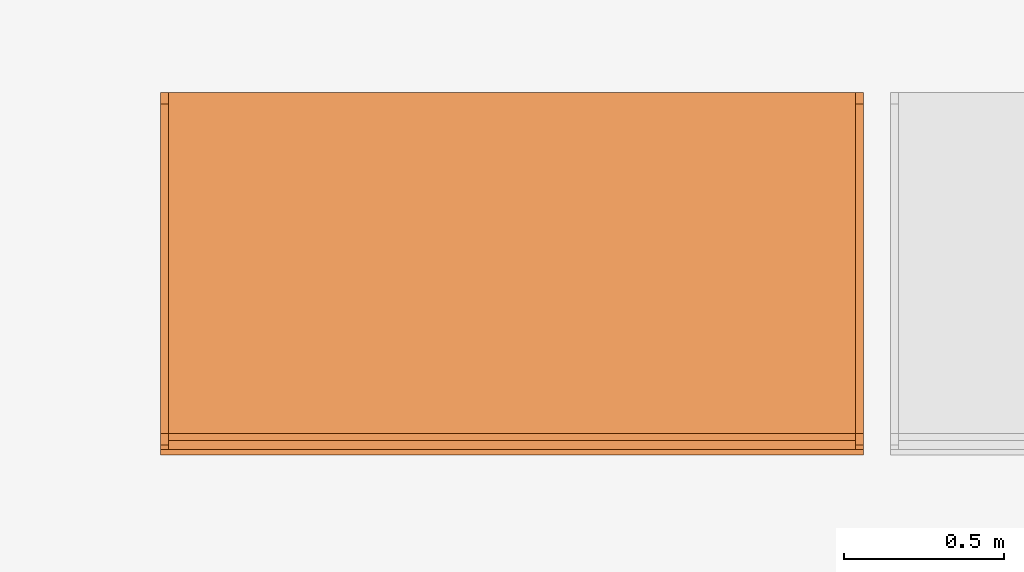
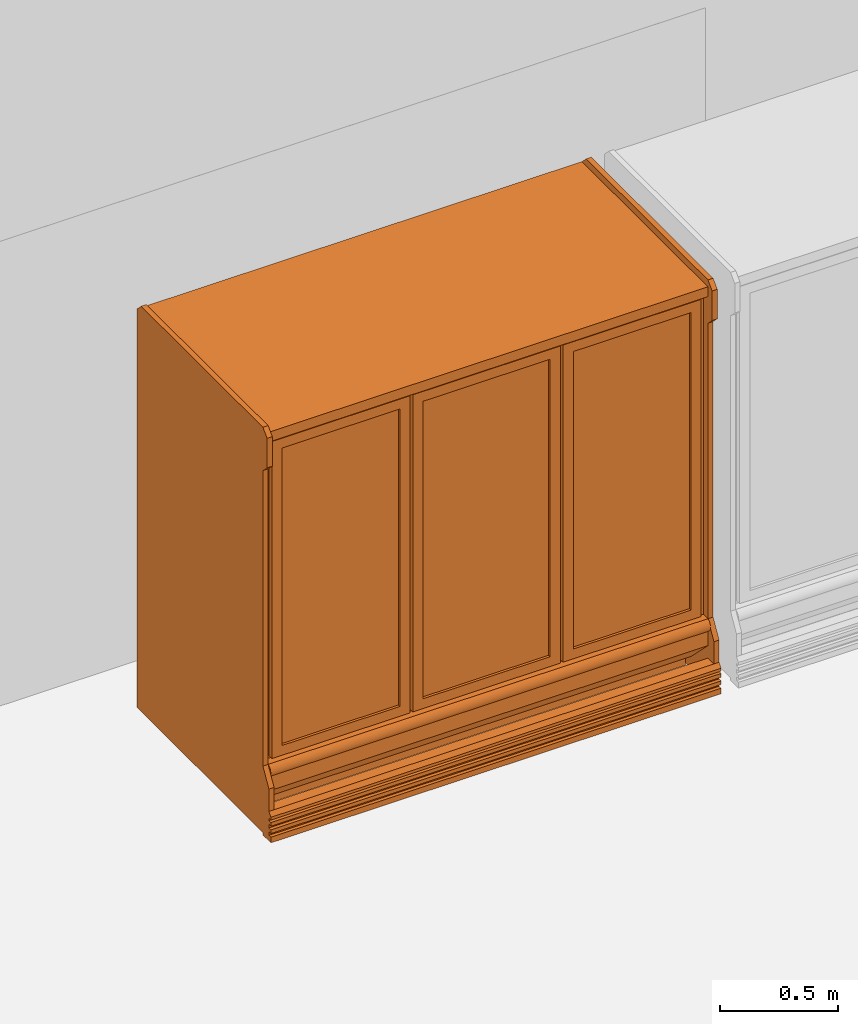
# One storey, part 5 of 11: 1 proxy.
"""IFC2X3 building model written with IfcOpenShell, lengths in metres."""

from ifc_helpers import new_model, entity, si_unit, converted_unit, derived_unit, direction, frame, frame_2d, origin, origin_2d_with_axis, place, context, subcontext, project, spatial, polyline, circle_curve, parameter, trimmed, segment, composite_curve, rectangle, outline, extrude, source, transform, mapped, material, material_list, type_object, type_shapes, element, save


model = new_model("IFC2X3")

# Units and contexts
model_context = context("Model", 3, precision=1e-05, world=origin(), true_north=direction((6.12303176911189e-17, 1.0)))
body_context = subcontext(model_context, "Body", "Model", "MODEL_VIEW")
ifc_project = project(units=[si_unit("LENGTHUNIT", "METRE"), si_unit("AREAUNIT", "SQUARE_METRE"), si_unit("VOLUMEUNIT", "CUBIC_METRE"), converted_unit("PLANEANGLEUNIT", "DEGREE", entity("IfcRatioMeasure", 0.0174532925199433), si_unit("PLANEANGLEUNIT", "RADIAN"), dimensions=[0, 0, 0, 0, 0, 0, 0]), si_unit("MASSUNIT", "GRAM", prefix="KILO"), derived_unit("MASSDENSITYUNIT", [(si_unit("MASSUNIT", "GRAM", prefix="KILO"), 1), (si_unit("LENGTHUNIT", "METRE"), -3)]), si_unit("TIMEUNIT", "SECOND"), si_unit("FREQUENCYUNIT", "HERTZ"), si_unit("THERMODYNAMICTEMPERATUREUNIT", "DEGREE_CELSIUS"), derived_unit("THERMALTRANSMITTANCEUNIT", [(si_unit("MASSUNIT", "GRAM", prefix="KILO"), 1), (si_unit("THERMODYNAMICTEMPERATUREUNIT", "KELVIN"), -1), (si_unit("TIMEUNIT", "SECOND"), -3)]), derived_unit("VOLUMETRICFLOWRATEUNIT", [(si_unit("LENGTHUNIT", "METRE"), 3), (si_unit("TIMEUNIT", "SECOND"), -1)]), si_unit("ELECTRICCURRENTUNIT", "AMPERE"), si_unit("ELECTRICVOLTAGEUNIT", "VOLT"), si_unit("POWERUNIT", "WATT"), si_unit("FORCEUNIT", "NEWTON", prefix="KILO"), si_unit("ILLUMINANCEUNIT", "LUX"), si_unit("LUMINOUSFLUXUNIT", "LUMEN"), si_unit("LUMINOUSINTENSITYUNIT", "CANDELA"), derived_unit("USERDEFINED", [(si_unit("MASSUNIT", "GRAM", prefix="KILO"), -1), (si_unit("LENGTHUNIT", "METRE"), -2), (si_unit("TIMEUNIT", "SECOND"), 3), (si_unit("LUMINOUSFLUXUNIT", "LUMEN"), 1)]), derived_unit("LINEARVELOCITYUNIT", [(si_unit("LENGTHUNIT", "METRE"), 1), (si_unit("TIMEUNIT", "SECOND"), -1)]), si_unit("PRESSUREUNIT", "PASCAL"), derived_unit("USERDEFINED", [(si_unit("LENGTHUNIT", "METRE"), -2), (si_unit("MASSUNIT", "GRAM", prefix="KILO"), 1), (si_unit("TIMEUNIT", "SECOND"), -2)])], contexts=[model_context])

# Site, building, storey
site_placement = place(None, origin())
site = spatial("IfcSite", under=ifc_project, at=site_placement, Name="Default", CompositionType="ELEMENT")
building_placement = place(site_placement, origin())
building = spatial("IfcBuilding", under=site, at=building_placement, CompositionType="ELEMENT")
storey_placement = place(building_placement, frame((0.0, 0.0, 1.49233632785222)))
storey = spatial("IfcBuildingStorey", under=building, at=storey_placement, Name="Niveau 0", CompositionType="ELEMENT", Elevation=1.49233632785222)

# Proxy
ifc_material_1 = material(Name="Métal - Chrome")
ifc_material_2 = material(Name="Verre")
ifc_material_3 = material(Name="Peinture - Blanc")
ifc_material_4 = material(Name="Plastique - Gris foncé")
ifc_material_list_1 = material_list([ifc_material_1, ifc_material_2, ifc_material_3, ifc_material_4])
ifc_material_list_2 = material_list([ifc_material_1, ifc_material_2, ifc_material_3, ifc_material_4])
building_element_proxy_type = type_object("IfcBuildingElementProxyType", Name="2200mm", PredefinedType="NOTDEFINED", material=ifc_material_list_2)
shared_shape = source(origin(), body_context, "Body", "SweptSolid", [
    extrude(outline(polyline([(-0.902820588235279, -0.198746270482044), (-0.902820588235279, -0.211446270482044), (0.824379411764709, -0.211446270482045), (0.824379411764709, -0.198746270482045), (0.608479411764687, -0.198746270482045), (0.608479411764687, -0.0923601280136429), (0.589429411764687, -0.0733101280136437), (0.589429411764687, 0.300798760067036), (0.570379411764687, 0.309681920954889), (0.570379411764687, -0.198746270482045), (0.316379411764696, -0.198746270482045), (0.316379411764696, -0.0876283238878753), (0.297329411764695, -0.0685783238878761), (0.297329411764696, 0.300798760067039), (0.278279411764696, 0.309681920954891), (0.278279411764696, -0.198746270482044), (0.0242794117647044, -0.198746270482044), (0.0242794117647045, -0.0828965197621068), (0.00522941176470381, -0.0638465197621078), (0.00522941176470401, 0.389270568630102), (-0.013820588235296, 0.398153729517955), (-0.0138205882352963, -0.198746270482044), (-0.267820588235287, -0.198746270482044), (-0.267820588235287, -0.0876283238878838), (-0.286870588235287, -0.0685783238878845), (-0.286870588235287, 0.389270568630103), (-0.305920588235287, 0.398153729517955), (-0.305920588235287, -0.198746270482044), (-0.559920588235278, -0.198746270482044), (-0.559920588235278, -0.0828965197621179), (-0.578970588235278, -0.0638465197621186), (-0.578970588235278, 0.385453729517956), (-0.598020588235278, 0.398153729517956), (-0.598020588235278, -0.198746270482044), (-0.902820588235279, -0.198746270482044)])), frame((-1.29363958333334, 0.702953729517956, 1.12917941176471), z_axis=(-1.0, 0.0, 0.0), x_axis=(0.0, 0.0, -1.0)), (0.0, 0.0, -1.0), 0.0126999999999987),
    extrude(rectangle(XDim=0.00634999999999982, YDim=0.574583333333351, at=frame_2d((-2.16840434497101e-18, 1.38777878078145e-16), x_axis=(1.0, 0.0))), frame((-0.942847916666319, 0.0285749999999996, 0.419100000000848), z_axis=(0.0, 0.0, 1.0), x_axis=(0.0, 1.0, 0.0)), (0.0, 0.0, 1.0), 1.53669999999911),
    extrude(outline(polyline([(-0.338091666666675, -0.819149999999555), (0.338091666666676, -0.819149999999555), (0.338091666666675, 0.819149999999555), (-0.338091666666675, 0.819149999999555), (-0.338091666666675, -0.819149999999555)]), holes=[polyline([(-0.287291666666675, -0.768349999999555), (-0.287291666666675, 0.768349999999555), (0.287291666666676, 0.768349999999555), (0.287291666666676, -0.768349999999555), (-0.287291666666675, -0.768349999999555)])]), frame((-0.942847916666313, 0.0126999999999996, 1.1874500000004), z_axis=(0.0, 1.0, 0.0), x_axis=(1.0, 0.0, 0.0)), (0.0, 0.0, 1.0), 0.0253999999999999),
    extrude(rectangle(XDim=0.00634999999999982, YDim=0.619033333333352, at=frame_2d((-2.16840434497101e-18, 0.0), x_axis=(1.0, 0.0))), frame((-1.65395625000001, 0.0285749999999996, 0.419100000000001), z_axis=(0.0, 0.0, 1.0), x_axis=(0.0, 1.0, 0.0)), (0.0, 0.0, 1.0), 1.5367),
    extrude(outline(polyline([(-0.360316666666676, -0.819149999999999), (0.360316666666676, -0.819149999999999), (0.360316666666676, 0.819149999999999), (-0.360316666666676, 0.819149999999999), (-0.360316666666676, -0.819149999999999)]), holes=[polyline([(-0.309516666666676, -0.768349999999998), (-0.309516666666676, 0.768349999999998), (0.309516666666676, 0.768349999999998), (0.309516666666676, -0.768349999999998), (-0.309516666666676, -0.768349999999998)])]), frame((-1.65395625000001, 0.0126999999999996, 1.18745), z_axis=(0.0, 1.0, 0.0), x_axis=(1.0, 0.0, 0.0)), (0.0, 0.0, 1.0), 0.0253999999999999),
    extrude(rectangle(XDim=0.00634999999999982, YDim=0.574583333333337, at=frame_2d((-2.16840434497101e-18, 0.0), x_axis=(1.0, 0.0))), frame((-2.36506458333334, 0.0285749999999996, 0.4191), z_axis=(0.0, 0.0, 1.0), x_axis=(0.0, 1.0, 0.0)), (0.0, 0.0, 1.0), 1.5367),
    extrude(outline(polyline([(-0.81915, -0.338091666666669), (0.81915, -0.338091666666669), (0.81915, 0.338091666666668), (-0.81915, 0.338091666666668), (-0.81915, -0.338091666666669)]), holes=[polyline([(-0.76835, -0.287291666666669), (-0.76835, 0.287291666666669), (0.76835, 0.287291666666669), (0.76835, -0.287291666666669), (-0.76835, -0.287291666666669)])]), frame((-2.36506458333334, 0.0126999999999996, 1.18745), z_axis=(0.0, 1.0, 0.0), x_axis=(0.0, 0.0, -1.0)), (0.0, 0.0, 1.0), 0.0253999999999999),
    extrude(outline(polyline([(-0.88265, -1.0746), (0.88265, -1.0746), (0.88265, 1.0746), (-0.88265, 1.0746), (-0.88265, -1.0746)]), holes=[polyline([(-0.80645, 0.385716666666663), (-0.80645, 1.0365), (0.80645, 1.0365), (0.80645, 0.385716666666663), (-0.80645, 0.385716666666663)]), polyline([(-0.80645, -0.347616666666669), (-0.80645, 0.347616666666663), (0.80645, 0.347616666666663), (0.80645, -0.347616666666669), (-0.80645, -0.347616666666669)]), polyline([(0.80645, -0.385716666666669), (0.80645, -1.0365), (-0.806450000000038, -1.0365), (-0.806450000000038, -0.385716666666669), (0.80645, -0.385716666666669)])]), frame((-1.65395625, 0.0380999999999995, 1.18745), z_axis=(0.0, 1.0, 0.0), x_axis=(0.0, 0.0, -1.0)), (0.0, 0.0, 1.0), 0.0381),
    extrude(outline(composite_curve([segment(trimmed(circle_curve(frame_2d((-0.0095885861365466, 0.0), x_axis=(1.0, 0.0)), 0.0327139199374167), [parameter(287.043889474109)], [parameter(72.9561105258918)], True, "PARAMETER"), True, "CONTINUOUS"), segment(polyline([(0.0, 0.0312771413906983), (0.0, -0.0312771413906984)]), True, "CONTINUOUS")], self_intersect=False)), frame((-2.72855625, 0.0, 0.324322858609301), z_axis=(1.0, 0.0, 0.0), x_axis=(0.0, -1.0, 0.0)), (0.0, 0.0, 1.0), 2.1492),
    extrude(outline(polyline([(-0.058322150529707, -0.045007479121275), (-0.0317412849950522, -0.045007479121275), (-0.0206789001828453, -0.0360006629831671), (-0.0312750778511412, -0.0229861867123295), (-0.0214265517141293, -0.0149676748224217), (-0.0108303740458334, -0.0279821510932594), (0.00394241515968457, -0.0159543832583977), (-0.00665376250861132, -0.00293990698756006), (0.00811902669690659, 0.0090878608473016), (0.0187152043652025, -0.00392661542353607), (0.0334879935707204, 0.00810115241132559), (0.0228918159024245, 0.0211156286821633), (0.0376646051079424, 0.0331433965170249), (0.0482607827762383, 0.0201289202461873), (0.0704563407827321, 0.0382001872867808), (0.0277861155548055, 0.0906087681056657), (-0.0903961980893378, -0.00561337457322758), (-0.058322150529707, -0.045007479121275)])), frame((-2.75395625, -0.052721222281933, 0.0787558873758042), z_axis=(1.0, 0.0, 0.0), x_axis=(0.0, -0.631378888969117, -0.775474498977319)), (0.0, 0.0, 1.0), 2.2),
    extrude(outline(polyline([(-0.78162589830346, -1.01392662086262), (0.249253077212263, -1.01392662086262), (0.285174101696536, -0.978005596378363), (0.285174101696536, -0.825605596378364), (0.249253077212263, -0.789684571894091), (0.249253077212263, 0.736494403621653), (0.300053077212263, 0.824482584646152), (0.300053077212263, 0.939694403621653), (0.249253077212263, 0.939694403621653), (0.249253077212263, 1.07939440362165), (-0.817546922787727, 1.07939440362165), (-0.817546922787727, -0.978005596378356), (-0.78162589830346, -1.01392662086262)])), frame((-0.579356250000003, 0.249253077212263, 1.09209440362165), z_axis=(1.0, 0.0, 0.0), x_axis=(0.0, -1.0, 0.0)), (0.0, 0.0, 1.0), 0.0254000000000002),
    extrude(outline(polyline([(-0.78162589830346, -1.01392662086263), (0.249253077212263, -1.01392662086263), (0.285174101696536, -0.978005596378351), (0.285174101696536, -0.825605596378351), (0.249253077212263, -0.789684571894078), (0.249253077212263, 0.736494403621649), (0.300053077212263, 0.824482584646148), (0.300053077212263, 0.939694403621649), (0.249253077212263, 0.939694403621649), (0.249253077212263, 1.07939440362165), (-0.817546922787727, 1.07939440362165), (-0.817546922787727, -0.97800559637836), (-0.78162589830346, -1.01392662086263)])), frame((-2.75395625, 0.249253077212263, 1.09209440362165), z_axis=(1.0, 0.0, 0.0), x_axis=(0.0, -1.0, 0.0)), (0.0, 0.0, 1.0), 0.0253999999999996),
    extrude(rectangle(XDim=2.1238, YDim=0.6096, at=origin_2d_with_axis()), frame((-1.65395625, 0.596900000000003, 0.558800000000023)), (0.0, 0.0, 1.0), 0.009525),
    extrude(rectangle(XDim=2.1238, YDim=0.6096, at=origin_2d_with_axis()), frame((-1.65395625, 0.596900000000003, 1.72719999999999)), (0.0, 0.0, 1.0), 0.009525),
    extrude(rectangle(XDim=2.1238, YDim=0.6096, at=origin_2d_with_axis()), frame((-1.65395625, 0.596900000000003, 1.4351)), (0.0, 0.0, 1.0), 0.009525),
    extrude(rectangle(XDim=2.1238, YDim=0.6096, at=frame_2d((0.0, -5.55111512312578e-17), x_axis=(1.0, 0.0))), frame((-1.65395625, 0.596900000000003, 1.14300000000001)), (0.0, 0.0, 1.0), 0.009525),
    extrude(rectangle(XDim=2.1238, YDim=0.6096, at=frame_2d((0.0, -5.55111512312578e-17), x_axis=(1.0, 0.0))), frame((-1.65395625, 0.596900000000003, 0.850900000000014)), (0.0, 0.0, 1.0), 0.009525),
    extrude(outline(polyline([(-0.902820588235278, -0.198746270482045), (-0.902820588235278, -0.211446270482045), (0.82437941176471, -0.211446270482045), (0.82437941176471, -0.198746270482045), (0.608479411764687, -0.198746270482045), (0.608479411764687, -0.0923601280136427), (0.589429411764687, -0.0733101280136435), (0.589429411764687, 0.300798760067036), (0.570379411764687, 0.309681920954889), (0.570379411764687, -0.198746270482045), (0.316379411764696, -0.198746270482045), (0.316379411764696, -0.0876283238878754), (0.297329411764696, -0.0685783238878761), (0.297329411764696, 0.300798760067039), (0.278279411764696, 0.309681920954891), (0.278279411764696, -0.198746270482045), (0.0242794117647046, -0.198746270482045), (0.0242794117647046, -0.0828965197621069), (0.00522941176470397, -0.063846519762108), (0.00522941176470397, 0.389270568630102), (-0.013820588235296, 0.398153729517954), (-0.013820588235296, -0.198746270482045), (-0.267820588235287, -0.198746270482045), (-0.267820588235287, -0.0876283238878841), (-0.286870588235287, -0.0685783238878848), (-0.286870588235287, 0.389270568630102), (-0.305920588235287, 0.398153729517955), (-0.305920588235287, -0.198746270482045), (-0.559920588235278, -0.198746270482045), (-0.559920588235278, -0.0828965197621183), (-0.578970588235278, -0.0638465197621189), (-0.578970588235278, 0.385453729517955), (-0.598020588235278, 0.398153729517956), (-0.598020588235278, -0.198746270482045), (-0.902820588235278, -0.198746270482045)])), frame((-2.02683434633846, 0.702953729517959, 1.12917941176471), z_axis=(-1.0, 0.0, 0.0), x_axis=(0.0, 0.0, -1.0)), (0.0, 0.0, -1.0), 0.0124228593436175),
    extrude(outline(polyline([(-0.902820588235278, -0.198746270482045), (-0.902820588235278, -0.211446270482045), (0.82437941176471, -0.211446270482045), (0.82437941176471, -0.198746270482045), (0.608479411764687, -0.198746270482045), (0.608479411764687, -0.0923601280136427), (0.589429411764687, -0.0733101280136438), (0.589429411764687, 0.300798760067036), (0.570379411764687, 0.309681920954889), (0.570379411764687, -0.198746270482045), (0.316379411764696, -0.198746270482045), (0.316379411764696, -0.0876283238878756), (0.297329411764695, -0.068578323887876), (0.297329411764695, 0.300798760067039), (0.278279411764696, 0.309681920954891), (0.278279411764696, -0.198746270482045), (0.0242794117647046, -0.198746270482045), (0.0242794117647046, -0.0828965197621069), (0.00522941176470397, -0.063846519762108), (0.00522941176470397, 0.389270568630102), (-0.013820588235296, 0.398153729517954), (-0.013820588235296, -0.198746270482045), (-0.267820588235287, -0.198746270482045), (-0.267820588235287, -0.0876283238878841), (-0.286870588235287, -0.0685783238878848), (-0.286870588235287, 0.389270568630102), (-0.305920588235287, 0.398153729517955), (-0.305920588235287, -0.198746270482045), (-0.559920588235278, -0.198746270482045), (-0.559920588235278, -0.0828965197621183), (-0.578970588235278, -0.0638465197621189), (-0.578970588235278, 0.385453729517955), (-0.598020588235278, 0.398153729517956), (-0.598020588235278, -0.198746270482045), (-0.902820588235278, -0.198746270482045)])), frame((-0.604756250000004, 0.702953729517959, 1.12917941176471), z_axis=(-1.0, 0.0, 0.0), x_axis=(0.0, 0.0, -1.0)), (0.0, 0.0, -1.0), 0.0127000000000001),
    extrude(outline(polyline([(-0.902820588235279, -0.198746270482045), (-0.902820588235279, -0.211446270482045), (0.824379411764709, -0.211446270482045), (0.824379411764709, -0.198746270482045), (0.608479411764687, -0.198746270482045), (0.608479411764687, -0.0923601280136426), (0.589429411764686, -0.0733101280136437), (0.589429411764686, 0.300798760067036), (0.570379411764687, 0.309681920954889), (0.570379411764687, -0.198746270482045), (0.316379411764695, -0.198746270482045), (0.316379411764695, -0.0876283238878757), (0.297329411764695, -0.0685783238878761), (0.297329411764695, 0.300798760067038), (0.278279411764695, 0.309681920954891), (0.278279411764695, -0.198746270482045), (0.0242794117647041, -0.198746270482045), (0.0242794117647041, -0.082896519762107), (0.00522941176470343, -0.0638465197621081), (0.00522941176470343, 0.389270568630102), (-0.0138205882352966, 0.398153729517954), (-0.0138205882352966, -0.198746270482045), (-0.267820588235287, -0.198746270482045), (-0.267820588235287, -0.0876283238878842), (-0.286870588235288, -0.0685783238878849), (-0.286870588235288, 0.389270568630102), (-0.305920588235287, 0.398153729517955), (-0.305920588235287, -0.198746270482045), (-0.559920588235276, -0.198746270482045), (-0.559920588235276, -0.0828965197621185), (-0.578970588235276, -0.0638465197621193), (-0.578970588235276, 0.385453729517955), (-0.598020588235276, 0.398153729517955), (-0.598020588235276, -0.198746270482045), (-0.902820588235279, -0.198746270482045)])), frame((-2.71585625, 0.702953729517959, 1.12917941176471), z_axis=(-1.0, 0.0, 0.0), x_axis=(0.0, 0.0, -1.0)), (0.0, 0.0, -1.0), 0.0127000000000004),
    extrude(outline(polyline([(-0.99836485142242, -0.344904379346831), (-0.947564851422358, -0.344904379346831), (-0.947564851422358, -0.192504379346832), (-0.960264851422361, -0.192504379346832), (-0.960264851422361, 0.569495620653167), (0.766935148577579, 0.569495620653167), (0.766935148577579, -0.306804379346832), (0.716135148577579, -0.306804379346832), (0.716135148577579, -0.344904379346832), (0.855178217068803, -0.344904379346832), (0.995535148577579, -0.204547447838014), (0.995535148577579, 0.721895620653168), (-0.99836485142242, 0.721895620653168), (-0.99836485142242, -0.344904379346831)])), frame((-2.72855625, 0.344904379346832, 1.07173514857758), z_axis=(1.0, 0.0, 0.0), x_axis=(0.0, 0.0, -1.0)), (0.0, 0.0, 1.0), 2.1492),
    extrude(rectangle(XDim=2.1492, YDim=0.85725, at=frame_2d((2.22044604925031e-16, 0.0), x_axis=(1.0, 0.0))), frame((-1.65395625, 0.619125, 0.0), z_axis=(0.0, 0.0, 1.0), x_axis=(-1.0, 0.0, 0.0)), (0.0, 0.0, 1.0), 0.0762),
])
type_shapes(building_element_proxy_type, [shared_shape])
proxy_placement = place(storey_placement, frame((4.53352737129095, -1.06468697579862, 0.0)))
element("IfcBuildingElementProxy", 1, at=proxy_placement, inside=storey, type_object=building_element_proxy_type, material=ifc_material_list_1, Name="Congélateur - Vertical trois portes:2200mm", ObjectType="Congélateur - Vertical trois portes:2200mm", context=body_context, shape_type="MappedRepresentation", body=[
    mapped(shared_shape, transform((0.0, 0.0, 0.0), scale=1.0)),
])

save(model, "model.ifc")
